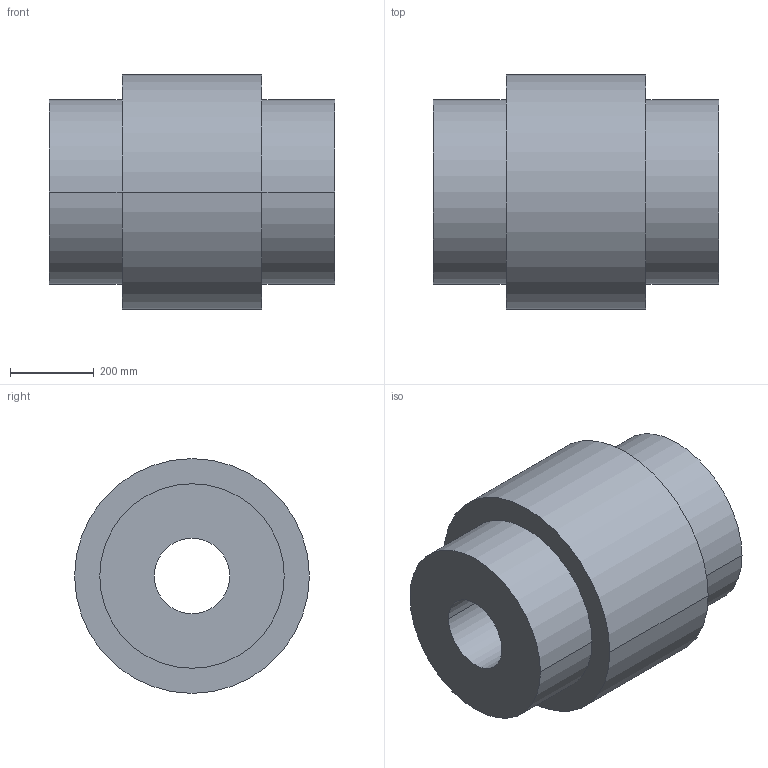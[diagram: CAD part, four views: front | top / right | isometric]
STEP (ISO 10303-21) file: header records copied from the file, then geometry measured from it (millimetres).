
FILE_DESCRIPTION((''),'2;1');
FILE_NAME('A19134300-0_ASM','2018-11-15T',('AB_Roschiwal'),('RENK AG'),'PRO/ENGINEER BY PARAMETRIC TECHNOLOGY CORPORATION, 2015440','PRO/ENGINEER BY PARAMETRIC TECHNOLOGY CORPORATION, 2015440','');
FILE_SCHEMA(('CONFIG_CONTROL_DESIGN'));
Length unit declared in the file: millimetre
Products named in the file (3): HBK265_GEHAEUSE; HBK265_NABE; A19134300-0_ASM
Assembly tree (3 placements, depth 2):
  A19134300-0_ASM
    HBK265_GEHAEUSE
    HBK265_NABE  x2
Bounding box: 680 x 560 x 560 mm (x, y, z)
Volume: 108207258.1 mm3; surface area: 3387793 mm2
Topology: 3 solids, 3 shells, 36 faces, 72 edges, 48 vertices
Faces by surface type: cylinder 24, plane 12
Entity records: 748 total; most frequent: DIRECTION 140, CARTESIAN_POINT 110, ORIENTED_EDGE 96, AXIS2_PLACEMENT_3D 62, EDGE_CURVE 48, VERTEX_POINT 32, EDGE_LOOP 32, CIRCLE 32
